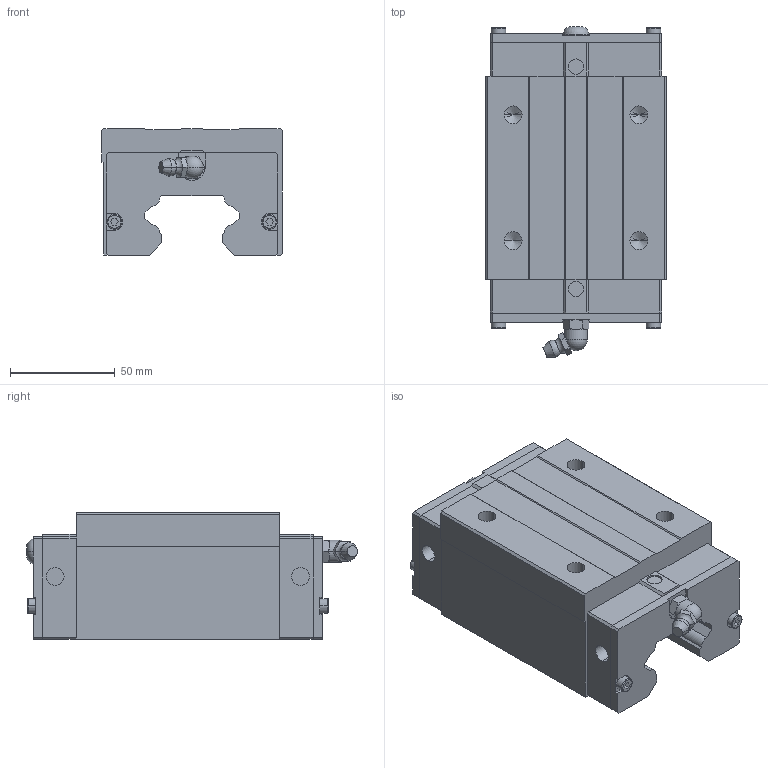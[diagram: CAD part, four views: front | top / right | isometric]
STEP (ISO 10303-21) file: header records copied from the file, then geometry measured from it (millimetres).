
FILE_DESCRIPTION(('no description'),'unknown implementation level');
FILE_NAME('HGH45CA_Z0_H_SS_10.stp',' ',('HIWIN GmbH'),('CADClick - KiM GmbH - www.kimweb.de'),'unknown preprocess','ACIS','unknown authorization');
FILE_SCHEMA(('automotive_design'));
Length unit declared in the file: millimetre
Products named in the file (1): HGH45CA Z0 H SS
Bounding box: 86 x 157.72 x 60.5 mm (x, y, z)
Volume: 517065.2 mm3; surface area: 61391.9 mm2
Topology: 1 solids, 6 shells, 295 faces, 753 edges, 475 vertices
Faces by surface type: plane 181, cylinder 60, torus 30, cone 22, sphere 2
Entity records: 17432 total; most frequent: CARTESIAN_POINT 1814, STYLED_ITEM 1514, PRESENTATION_STYLE_ASSIGNMENT 1514, COLOUR_RGB 1514, DIRECTION 1486, ORIENTED_EDGE 1486, EDGE_CURVE 743, CURVE_STYLE 743
